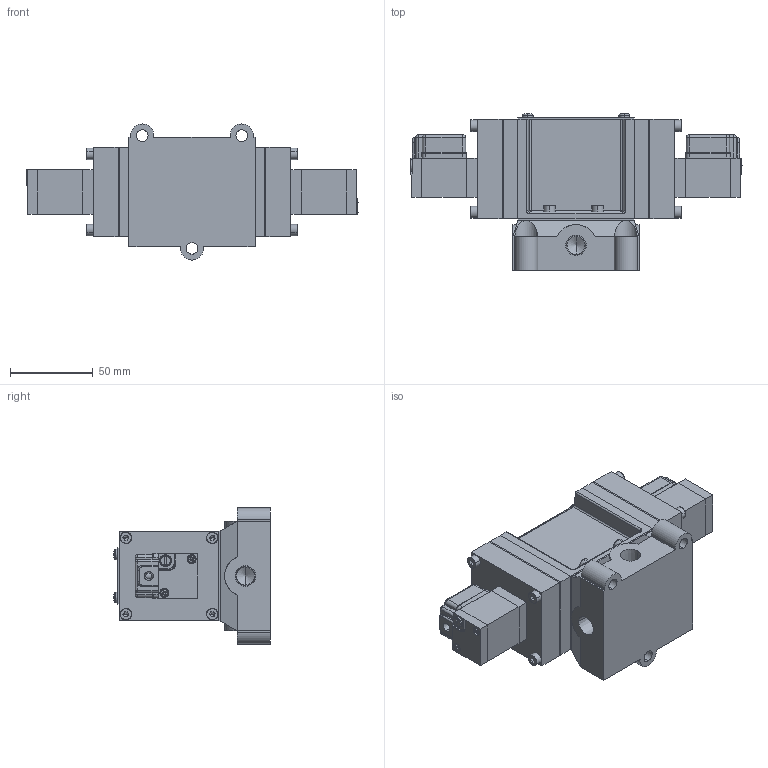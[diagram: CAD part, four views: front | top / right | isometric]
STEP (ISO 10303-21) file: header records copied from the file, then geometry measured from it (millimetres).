
FILE_DESCRIPTION (( 'STEP AP203' ), '1' );
FILE_NAME ('PMD(E)3408#-02-#G#.STEP', '2016-03-09T05:40:12', ( 'Sam Lin' ), ( '' ), 'SwSTEP 2.0', 'SolidWorks 2013', '' );
FILE_SCHEMA (( 'CONFIG_CONTROL_DESIGN' ));
Length unit declared in the file: metre
Products named in the file (17): PM06-C1; PMS2408-3; PM06-C4; PMS2408-4; PM06-C6-M3; PMS2408-5; PMS2408-7; PM06-C5; PMS2408-8; PM06-G1; PM08-MARK-2408; ISO 4762 M4 x 10; PM06-C3-M4; PMS2408-1; PMD(E)3408#-02-#G#; PMS2408-9; PMS2408-2
Assembly tree (40 placements, depth 2):
  PMD(E)3408#-02-#G#
    PMS2408-1
    PMS2408-2
    PMS2408-3
    PMS2408-4  x2
    PMS2408-5  x2
    PMS2408-7
    PMS2408-8  x2
    PM08-MARK-2408
    PM06-C3-M4  x4
    PMS2408-9  x2
    PM06-C1  x2
    PM06-C4  x2
    PM06-C6-M3  x4
    PM06-C5  x2
    PM06-G1  x2
    ISO 4762 M4 x 10  x11
Bounding box: 200 x 94.35 x 82 mm (x, y, z)
Volume: 538569.3 mm3; surface area: 140239.3 mm2
Topology: 46 solids, 46 shells, 1097 faces, 2586 edges, 1577 vertices
Faces by surface type: plane 570, cylinder 249, cone 138, bspline 132, torus 8
Entity records: 17935 total; most frequent: CARTESIAN_POINT 4336, DIRECTION 2358, ORIENTED_EDGE 2266, EDGE_CURVE 1133, AXIS2_PLACEMENT_3D 854, VERTEX_POINT 717, LINE 650, VECTOR 650
